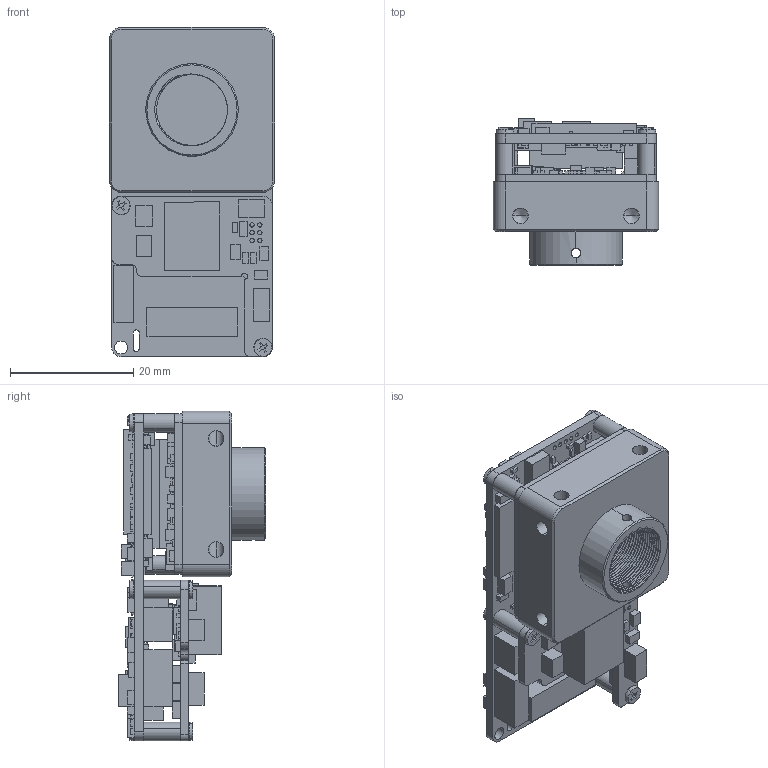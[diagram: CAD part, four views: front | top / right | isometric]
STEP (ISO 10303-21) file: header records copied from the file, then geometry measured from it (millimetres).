
FILE_DESCRIPTION (( 'STEP AP203' ), '1' );
FILE_NAME ('XS-P-M12.STEP', '2023-06-17T09:22:41', ( '' ), ( '' ), 'SwSTEP 2.0', 'SolidWorks 2022', '' );
FILE_SCHEMA (( 'CONFIG_CONTROL_DESIGN' ));
Length unit declared in the file: millimetre
Products named in the file (8): MG53-002-XS; MPT-003; S210011-001-A0; XS-P-M12; S180001-008; PS178-003; S180001-009; GB_CROSS_SCREWS_TYPE135 M2X5-N_GB_CROSS_SCREWS_TYPE135 M2X5-N
Assembly tree (16 placements, depth 2):
  XS-P-M12
    S210011-001-A0
    PS178-003
    MPT-003
    MG53-002-XS
    S180001-008  x3
    S180001-009  x2
    GB_CROSS_SCREWS_TYPE135 M2X5-N_GB_CROSS_SCREWS_TYPE135 M2X5-N  x7
Bounding box: 26.8 x 23.84 x 53.4 mm (x, y, z)
Volume: 11072.8 mm3; surface area: 16200 mm2
Topology: 362 solids, 362 shells, 2637 faces, 5644 edges, 3731 vertices
Faces by surface type: plane 2263, cylinder 282, cone 66, torus 14, bspline 12
Entity records: 71680 total; most frequent: CARTESIAN_POINT 18504, ORIENTED_EDGE 10276, DIRECTION 10215, EDGE_CURVE 5138, VECTOR 4589, LINE 4589, VERTEX_POINT 3417, AXIS2_PLACEMENT_3D 2813
